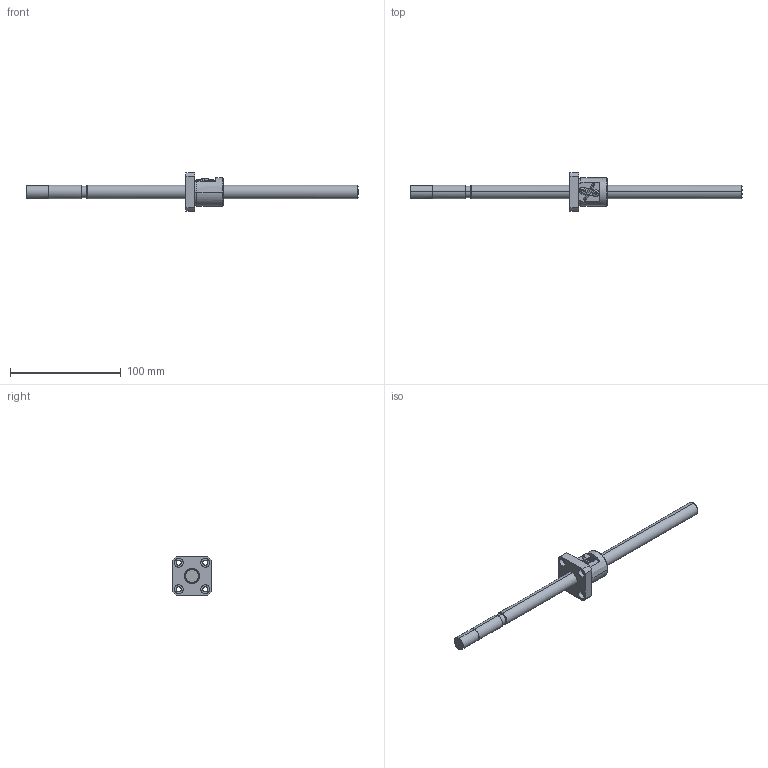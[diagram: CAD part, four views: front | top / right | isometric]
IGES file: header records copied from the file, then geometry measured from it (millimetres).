
Global section: file name: No Iges File Name specified; native system: AutoDesk Inventor R10; preprocessor: AutoDesk Inventor Iges Exporter R10; author: No Author specified; organization: No Organization specified; date: 20101224.135619; units: millimetre
Bounding box: 300 x 35 x 35 mm (x, y, z)
Surface area: 19037.3 mm2 (no closed solid volume)
Topology: 0 solids, 0 shells, 124 faces, 908 edges, 908 vertices
Faces by surface type: bspline 124
